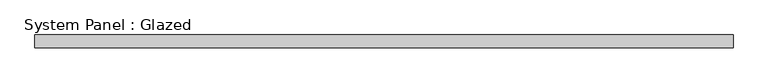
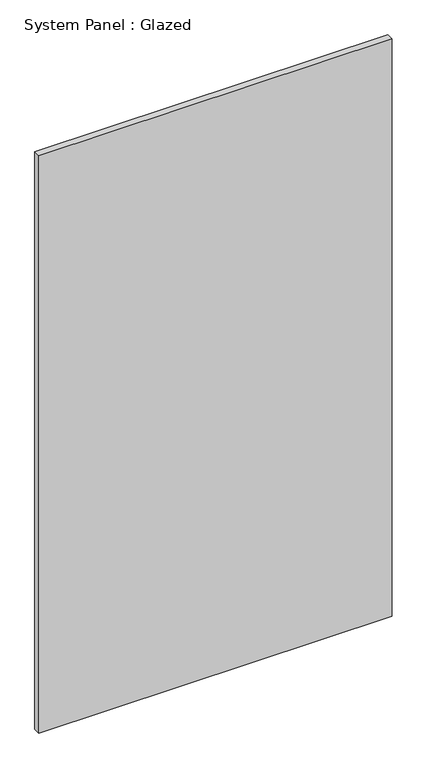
"""IFC4 building model written with IfcOpenShell, lengths in millimetres: plate geometry, System Panel : Glazed."""

from ifc_helpers import new_model, si_unit, origin, origin_with_axes, place, context, project, spatial, polyline, outline, extrude, source, transform, mapped, element, save


def system_panel_glazed_ecd7ada4(model_context):
    return source(origin(), model_context, "Body", "SweptSolid", [
        extrude(outline(polyline([(673.3099811, 24.5), (-673.3099811, 24.5), (-673.3099811, 49.5), (673.3099811, 49.5), (673.3099811, 24.5)])), origin_with_axes(), (0.0, 0.0, 1.0), 2325.0),
    ])


if __name__ == "__main__":
    model = new_model("IFC4")
    model_context = context("Model", 3, world=origin())
    ifc_project = project(units=[si_unit("LENGTHUNIT", "METRE", prefix="MILLI")], contexts=[model_context])
    site = spatial("IfcSite", under=ifc_project)
    building = spatial("IfcBuilding", under=site)
    placement = place(None, origin())
    system_panel_glazed_shape = system_panel_glazed_ecd7ada4(model_context)
    element("IfcPlate", 1, ObjectType="System Panel : Glazed", at=placement, inside=building, context=model_context, shape_type="MappedRepresentation", body=[
        mapped(system_panel_glazed_shape, transform((0.0, 0.0, 0.0), x_axis=(1.0, 0.0, 0.0), y_axis=(0.0, 1.0, 0.0), z_axis=(0.0, 0.0, 1.0))),
    ])
    save(model, "model.ifc")
